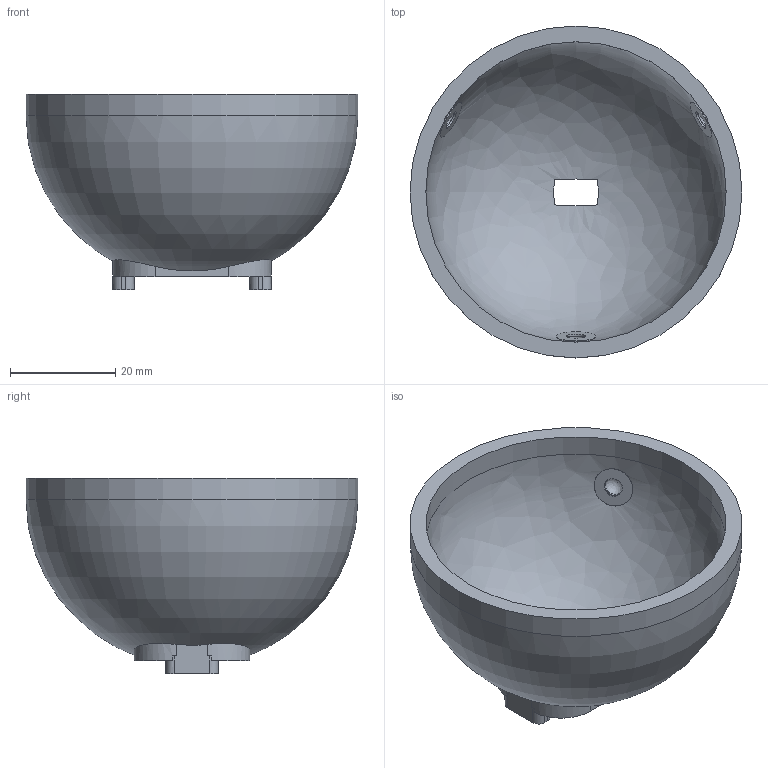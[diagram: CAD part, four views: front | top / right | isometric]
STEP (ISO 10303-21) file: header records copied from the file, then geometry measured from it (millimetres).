
FILE_DESCRIPTION(('Open CASCADE Model'),'2;1');
FILE_NAME('Open CASCADE Shape Model','2026-05-31T19:43:46',('Author'),( 'Open CASCADE'),'Open CASCADE STEP processor 7.6','Open CASCADE 7.6' ,'Unknown');
FILE_SCHEMA(('AP242_MANAGED_MODEL_BASED_3D_ENGINEERING_MIM_LF. {1 0 10303 442 1 1 4 }'));
Length unit declared in the file: millimetre
Products named in the file (1): Open CASCADE STEP translator 7.6 10
Bounding box: 63 x 63 x 37.1 mm (x, y, z)
Volume: 19407.7 mm3; surface area: 13879.4 mm2
Topology: 1 solids, 1 shells, 80 faces, 209 edges, 137 vertices
Faces by surface type: plane 35, cylinder 31, revolution 8, bspline 4, cone 2
Full cylindrical faces by diameter (mm): 2.05 x2, 3.57 x3, 3.572 x3, 7.57 x3, 57 x1, 63 x1
Entity records: 8789 total; most frequent: CARTESIAN_POINT 4671, DIRECTION 765, ORIENTED_EDGE 408, PCURVE 408, DEFINITIONAL_REPRESENTATION 408, LINE 403, VECTOR 403, EDGE_CURVE 204
